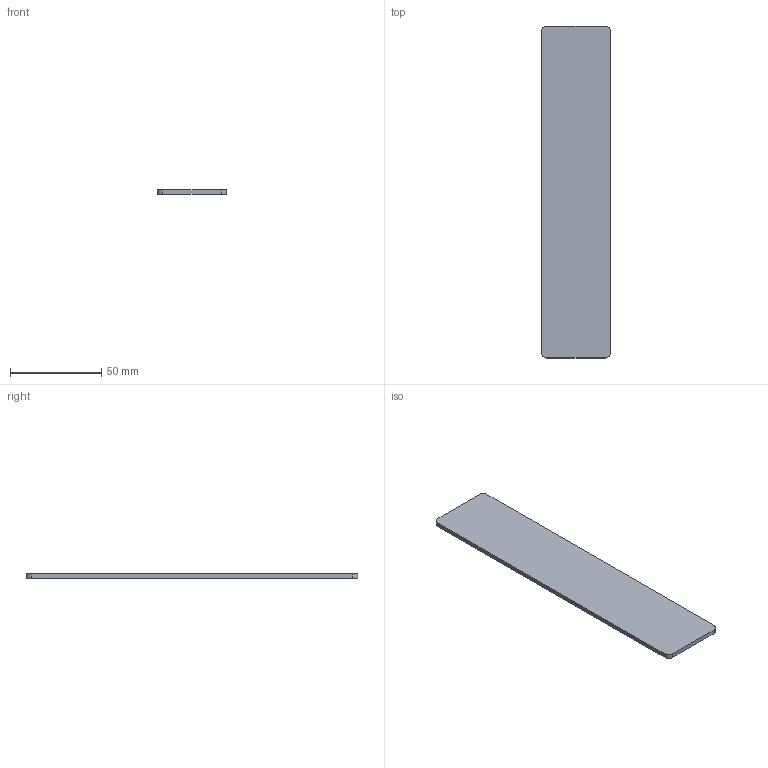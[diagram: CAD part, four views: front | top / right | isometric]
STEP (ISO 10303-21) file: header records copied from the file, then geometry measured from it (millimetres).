
FILE_DESCRIPTION(('FreeCAD Model'),'2;1');
FILE_NAME('Open CASCADE Shape Model','2026-10-31T13:49:49',('FreeCAD'),( 'FreeCAD'),'Open CASCADE STEP processor 7.8','FreeCAD','Unknown');
FILE_SCHEMA(('AUTOMOTIVE_DESIGN { 1 0 10303 214 1 1 1 1 }'));
Length unit declared in the file: millimetre
Products named in the file (1): Open CASCADE STEP translator 7.8 32
Bounding box: 38 x 182 x 2.4 mm (x, y, z)
Volume: 16579.9 mm3; surface area: 14860.2 mm2
Topology: 1 solids, 1 shells, 10 faces, 24 edges, 16 vertices
Faces by surface type: plane 6, cylinder 4
Entity records: 306 total; most frequent: DIRECTION 54, CARTESIAN_POINT 51, ORIENTED_EDGE 48, EDGE_CURVE 24, AXIS2_PLACEMENT_3D 19, VERTEX_POINT 16, LINE 16, VECTOR 16
